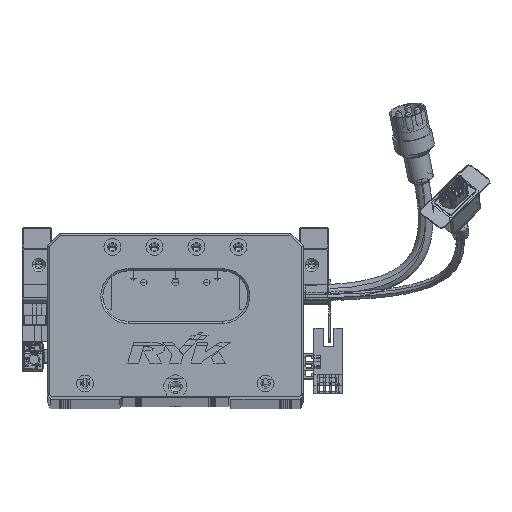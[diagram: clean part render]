
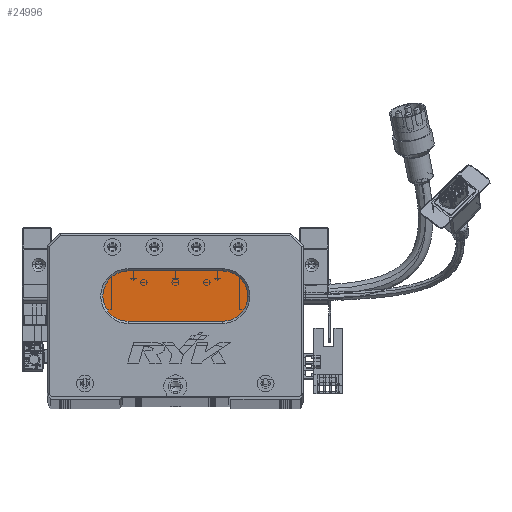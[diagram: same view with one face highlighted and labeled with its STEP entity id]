
A CAD part, top view. The second image highlights one B-rep face of the part: STEP entity #24996.
In plain terms, the highlighted planar face has unit normal (0, 0, 1) as drawn and (0, 0, -1) by its records, which use the part's own axes.
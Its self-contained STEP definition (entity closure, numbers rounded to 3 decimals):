
#4051 = VERTEX_POINT ( 'NONE', #19369 ) ;
#7540 = CARTESIAN_POINT ( 'NONE',  ( 38.5, 48., 13. ) ) ;
#9864 = CIRCLE ( 'NONE', #104430, 12. ) ;
#9902 = EDGE_LOOP ( 'NONE', ( #28954, #122415, #60912, #16474, #101609 ) ) ;
#10228 = EDGE_CURVE ( 'NONE', #108472, #80494, #31581, .T. ) ;
#16474 = ORIENTED_EDGE ( 'NONE', *, *, #10228, .T. ) ;
#19369 = CARTESIAN_POINT ( 'NONE',  ( 83.5, 60., 13. ) ) ;
#23324 = DIRECTION ( 'NONE',  ( -1., 0., 0. ) ) ;
#24996 = ADVANCED_FACE ( 'NONE', ( #77649 ), #75457, .T. ) ;
#28954 = ORIENTED_EDGE ( 'NONE', *, *, #41830, .T. ) ;
#31581 = CIRCLE ( 'NONE', #82546, 12. ) ;
#34095 = DIRECTION ( 'NONE',  ( 0., 0., -1. ) ) ;
#34139 = VECTOR ( 'NONE', #84452, 1000. ) ;
#38555 = EDGE_CURVE ( 'NONE', #55236, #108472, #9864, .T. ) ;
#41830 = EDGE_CURVE ( 'NONE', #4051, #102475, #73558, .T. ) ;
#43595 = DIRECTION ( 'NONE',  ( -1., 0., 0. ) ) ;
#51741 = CARTESIAN_POINT ( 'NONE',  ( 38.5, 36., 13. ) ) ;
#51862 = CARTESIAN_POINT ( 'NONE',  ( 38.5, 48., 13. ) ) ;
#55236 = VERTEX_POINT ( 'NONE', #51741 ) ;
#57314 = DIRECTION ( 'NONE',  ( -1., 0., 0. ) ) ;
#60912 = ORIENTED_EDGE ( 'NONE', *, *, #38555, .T. ) ;
#73558 = CIRCLE ( 'NONE', #74468, 12. ) ;
#74468 = AXIS2_PLACEMENT_3D ( 'NONE', #122616, #94523, #57314 ) ;
#75127 = CARTESIAN_POINT ( 'NONE',  ( 83.5, 36., 13. ) ) ;
#75457 = PLANE ( 'NONE',  #113509 ) ;
#75531 = LINE ( 'NONE', #93984, #34139 ) ;
#77649 = FACE_OUTER_BOUND ( 'NONE', #9902, .T. ) ;
#79090 = CARTESIAN_POINT ( 'NONE',  ( 26.5, 48., 13. ) ) ;
#80494 = VERTEX_POINT ( 'NONE', #82570 ) ;
#82546 = AXIS2_PLACEMENT_3D ( 'NONE', #51862, #34095, #43595 ) ;
#82570 = CARTESIAN_POINT ( 'NONE',  ( 38.5, 60., 13. ) ) ;
#84452 = DIRECTION ( 'NONE',  ( 1., 0., 0. ) ) ;
#88762 = LINE ( 'NONE', #98584, #108027 ) ;
#93248 = DIRECTION ( 'NONE',  ( -1., 0., 0. ) ) ;
#93984 = CARTESIAN_POINT ( 'NONE',  ( 83.5, 60., 13. ) ) ;
#94523 = DIRECTION ( 'NONE',  ( 0., 0., -1. ) ) ;
#95775 = DIRECTION ( 'NONE',  ( 0., 0., -1. ) ) ;
#98584 = CARTESIAN_POINT ( 'NONE',  ( 83.5, 36., 13. ) ) ;
#101609 = ORIENTED_EDGE ( 'NONE', *, *, #122576, .T. ) ;
#102475 = VERTEX_POINT ( 'NONE', #75127 ) ;
#103854 = EDGE_CURVE ( 'NONE', #102475, #55236, #88762, .T. ) ;
#104430 = AXIS2_PLACEMENT_3D ( 'NONE', #7540, #95775, #109380 ) ;
#108027 = VECTOR ( 'NONE', #23324, 1000. ) ;
#108472 = VERTEX_POINT ( 'NONE', #79090 ) ;
#109380 = DIRECTION ( 'NONE',  ( -1., 0., 0. ) ) ;
#112285 = CARTESIAN_POINT ( 'NONE',  ( 83.5, 48., 13. ) ) ;
#113509 = AXIS2_PLACEMENT_3D ( 'NONE', #112285, #121392, #93248 ) ;
#121392 = DIRECTION ( 'NONE',  ( 0., 0., -1. ) ) ;
#122415 = ORIENTED_EDGE ( 'NONE', *, *, #103854, .T. ) ;
#122576 = EDGE_CURVE ( 'NONE', #80494, #4051, #75531, .T. ) ;
#122616 = CARTESIAN_POINT ( 'NONE',  ( 83.5, 48., 13. ) ) ;
